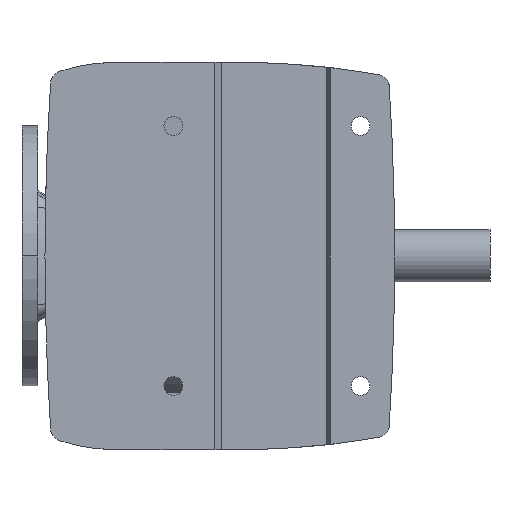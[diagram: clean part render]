
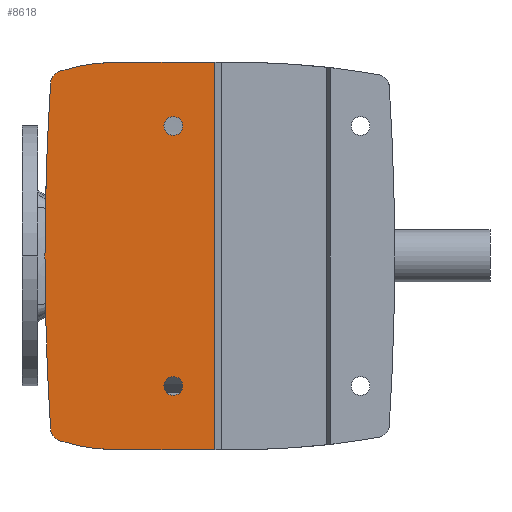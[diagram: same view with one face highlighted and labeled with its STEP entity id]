
A CAD part, front view. The second image highlights one B-rep face of the part: STEP entity #8618.
In plain terms, the highlighted planar face has unit normal (0, -1, 0).
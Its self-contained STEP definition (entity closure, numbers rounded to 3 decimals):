
#30=CARTESIAN_POINT('',(17.,-15.,186.25));
#278=DIRECTION('',(0.,0.,1.));
#279=VECTOR('',#278,372.499);
#280=CARTESIAN_POINT('',(17.,-15.,-186.25));
#281=LINE('',#280,#279);
#286=CARTESIAN_POINT('',(33.652,-15.,659.542));
#287=DIRECTION('',(0.,1.,0.));
#288=DIRECTION('',(-0.02,0.,-1.));
#289=AXIS2_PLACEMENT_3D('',#286,#287,#288);
#291=CARTESIAN_POINT('',(-39.275,-15.,2980.864));
#292=DIRECTION('',(0.,1.,0.));
#293=DIRECTION('',(0.016,0.,-1.));
#294=AXIS2_PLACEMENT_3D('',#291,#292,#293);
#296=CARTESIAN_POINT('',(-77.482,-15.,-8.782));
#297=DIRECTION('',(0.,1.,0.));
#298=DIRECTION('',(-0.013,0.,-1.));
#299=AXIS2_PLACEMENT_3D('',#296,#297,#298);
#301=CARTESIAN_POINT('',(-128.234,-15.,-165.421));
#302=DIRECTION('',(0.,1.,0.));
#303=DIRECTION('',(-0.308,0.,-0.951));
#304=AXIS2_PLACEMENT_3D('',#301,#302,#303);
#306=CARTESIAN_POINT('',(2426.707,-15.,0.));
#307=DIRECTION('',(0.,1.,0.));
#308=DIRECTION('',(-0.998,0.,-0.065));
#309=AXIS2_PLACEMENT_3D('',#306,#307,#308);
#311=CARTESIAN_POINT('',(2426.707,-15.,0.));
#312=DIRECTION('',(0.,1.,0.));
#313=DIRECTION('',(-1.,0.,0.));
#314=AXIS2_PLACEMENT_3D('',#311,#312,#313);
#316=CARTESIAN_POINT('',(-128.235,-15.,165.421));
#317=DIRECTION('',(0.,1.,0.));
#318=DIRECTION('',(-0.998,0.,0.064));
#319=AXIS2_PLACEMENT_3D('',#316,#317,#318);
#321=CARTESIAN_POINT('',(-77.432,-15.,8.479));
#322=DIRECTION('',(0.,1.,0.));
#323=DIRECTION('',(-0.308,0.,0.951));
#324=AXIS2_PLACEMENT_3D('',#321,#322,#323);
#326=CARTESIAN_POINT('',(-39.321,-15.,-3038.227));
#327=DIRECTION('',(0.,1.,0.));
#328=DIRECTION('',(-0.013,0.,1.));
#329=AXIS2_PLACEMENT_3D('',#326,#327,#328);
#331=CARTESIAN_POINT('',(33.653,-15.,-659.532));
#332=DIRECTION('',(0.,1.,0.));
#333=DIRECTION('',(-0.027,0.,1.));
#334=AXIS2_PLACEMENT_3D('',#331,#332,#333);
#336=CARTESIAN_POINT('',(-23.,-15.,-125.));
#337=DIRECTION('',(0.,-1.,0.));
#338=DIRECTION('',(1.,0.,0.));
#339=AXIS2_PLACEMENT_3D('',#336,#337,#338);
#341=CARTESIAN_POINT('',(-23.,-15.,-125.));
#342=DIRECTION('',(0.,-1.,0.));
#343=DIRECTION('',(-1.,0.,0.));
#344=AXIS2_PLACEMENT_3D('',#341,#342,#343);
#346=CARTESIAN_POINT('',(-23.,-15.,125.));
#347=DIRECTION('',(0.,-1.,0.));
#348=DIRECTION('',(1.,0.,0.));
#349=AXIS2_PLACEMENT_3D('',#346,#347,#348);
#351=CARTESIAN_POINT('',(-23.,-15.,125.));
#352=DIRECTION('',(0.,-1.,0.));
#353=DIRECTION('',(-1.,0.,0.));
#354=AXIS2_PLACEMENT_3D('',#351,#352,#353);
#6875=CARTESIAN_POINT('',(11.,-15.,186.111));
#6877=VERTEX_POINT('',#6875);
#6878=CARTESIAN_POINT('',(-79.745,-15.,186.252));
#6879=VERTEX_POINT('',#6878);
#6894=VERTEX_POINT('',#30);
#6926=CARTESIAN_POINT('',(11.,-15.,-186.11));
#6927=VERTEX_POINT('',#6926);
#6928=CARTESIAN_POINT('',(17.,-15.,-186.25));
#6929=VERTEX_POINT('',#6928);
#6946=CARTESIAN_POINT('',(-79.745,-15.,-186.251));
#6947=VERTEX_POINT('',#6946);
#6948=CARTESIAN_POINT('',(-132.184,-15.,-177.624));
#6949=VERTEX_POINT('',#6948);
#6950=CARTESIAN_POINT('',(-141.035,-15.,-166.246));
#6951=VERTEX_POINT('',#6950);
#6952=CARTESIAN_POINT('',(-146.411,-15.,0.));
#6953=CARTESIAN_POINT('',(-141.035,-15.,166.246));
#6954=VERTEX_POINT('',#6952);
#6955=VERTEX_POINT('',#6953);
#6956=CARTESIAN_POINT('',(-132.176,-15.,177.628));
#6957=VERTEX_POINT('',#6956);
#6958=CARTESIAN_POINT('',(-14.,-15.,-125.));
#6959=CARTESIAN_POINT('',(-32.,-15.,-125.));
#6960=VERTEX_POINT('',#6958);
#6961=VERTEX_POINT('',#6959);
#6962=CARTESIAN_POINT('',(-14.,-15.,125.));
#6963=CARTESIAN_POINT('',(-32.,-15.,125.));
#6964=VERTEX_POINT('',#6962);
#6965=VERTEX_POINT('',#6963);
#8581=CARTESIAN_POINT('',(0.,-15.,0.));
#8582=DIRECTION('',(0.,-1.,0.));
#8583=DIRECTION('',(-1.,0.,0.));
#8584=AXIS2_PLACEMENT_3D('',#8581,#8582,#8583);
#8585=PLANE('',#8584);
#8586=ORIENTED_EDGE('',*,*,#8353,.T.);
#8588=ORIENTED_EDGE('',*,*,#8587,.T.);
#8590=ORIENTED_EDGE('',*,*,#8589,.T.);
#8592=ORIENTED_EDGE('',*,*,#8591,.T.);
#8594=ORIENTED_EDGE('',*,*,#8593,.T.);
#8596=ORIENTED_EDGE('',*,*,#8595,.T.);
#8598=ORIENTED_EDGE('',*,*,#8597,.T.);
#8600=ORIENTED_EDGE('',*,*,#8599,.T.);
#8601=ORIENTED_EDGE('',*,*,#8241,.T.);
#8602=ORIENTED_EDGE('',*,*,#8271,.T.);
#8603=ORIENTED_EDGE('',*,*,#8574,.F.);
#8604=EDGE_LOOP('',(#8586,#8588,#8590,#8592,#8594,#8596,#8598,#8600,#8601,#8602,
#8603));
#8605=FACE_OUTER_BOUND('',#8604,.F.);
#8607=ORIENTED_EDGE('',*,*,#8606,.T.);
#8609=ORIENTED_EDGE('',*,*,#8608,.T.);
#8610=EDGE_LOOP('',(#8607,#8609));
#8611=FACE_BOUND('',#8610,.F.);
#8613=ORIENTED_EDGE('',*,*,#8612,.T.);
#8615=ORIENTED_EDGE('',*,*,#8614,.T.);
#8616=EDGE_LOOP('',(#8613,#8615));
#8617=FACE_BOUND('',#8616,.F.);
#8618=ADVANCED_FACE('',(#8605,#8611,#8617),#8585,.T.);
#290=CIRCLE('',#289,845.955);
#295=CIRCLE('',#294,3167.373);
#300=CIRCLE('',#299,177.482);
#305=CIRCLE('',#304,12.827);
#310=CIRCLE('',#309,2573.118);
#315=CIRCLE('',#314,2573.118);
#320=CIRCLE('',#319,12.827);
#325=CIRCLE('',#324,177.787);
#330=CIRCLE('',#329,3224.732);
#335=CIRCLE('',#334,845.946);
#340=CIRCLE('',#339,9.);
#345=CIRCLE('',#344,9.);
#350=CIRCLE('',#349,9.);
#355=CIRCLE('',#354,9.);
#8241=EDGE_CURVE('',#6879,#6877,#330,.T.);
#8271=EDGE_CURVE('',#6877,#6894,#335,.T.);
#8353=EDGE_CURVE('',#6929,#6927,#290,.T.);
#8574=EDGE_CURVE('',#6929,#6894,#281,.T.);
#8587=EDGE_CURVE('',#6927,#6947,#295,.T.);
#8589=EDGE_CURVE('',#6947,#6949,#300,.T.);
#8591=EDGE_CURVE('',#6949,#6951,#305,.T.);
#8593=EDGE_CURVE('',#6951,#6954,#310,.T.);
#8595=EDGE_CURVE('',#6954,#6955,#315,.T.);
#8597=EDGE_CURVE('',#6955,#6957,#320,.T.);
#8599=EDGE_CURVE('',#6957,#6879,#325,.T.);
#8606=EDGE_CURVE('',#6960,#6961,#340,.T.);
#8608=EDGE_CURVE('',#6961,#6960,#345,.T.);
#8612=EDGE_CURVE('',#6964,#6965,#350,.T.);
#8614=EDGE_CURVE('',#6965,#6964,#355,.T.);
